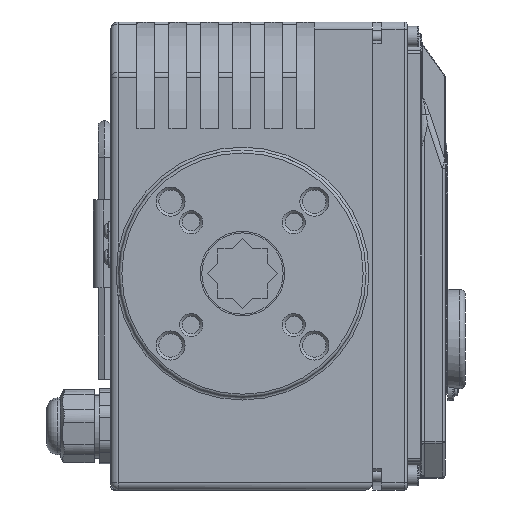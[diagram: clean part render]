
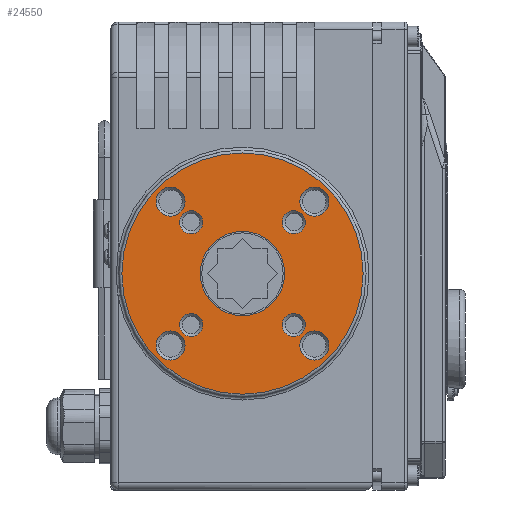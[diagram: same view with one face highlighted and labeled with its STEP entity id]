
A CAD part, front view. The second image highlights one B-rep face of the part: STEP entity #24550.
In plain terms, the highlighted planar face has unit normal (0, -1, 0).
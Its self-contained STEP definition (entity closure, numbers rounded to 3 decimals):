
#798=PLANE('',#26270);
#5063=FACE_BOUND('',#7237,.T.);
#5064=FACE_BOUND('',#7238,.T.);
#5065=FACE_BOUND('',#7239,.T.);
#5066=FACE_BOUND('',#7240,.T.);
#5067=FACE_BOUND('',#7241,.T.);
#5068=FACE_BOUND('',#7242,.T.);
#5069=FACE_BOUND('',#7243,.T.);
#5070=FACE_BOUND('',#7244,.T.);
#5071=FACE_BOUND('',#7245,.T.);
#5838=FACE_OUTER_BOUND('',#7236,.T.);
#7236=EDGE_LOOP('',(#18012));
#7237=EDGE_LOOP('',(#18013));
#7238=EDGE_LOOP('',(#18014));
#7239=EDGE_LOOP('',(#18015));
#7240=EDGE_LOOP('',(#18016));
#7241=EDGE_LOOP('',(#18017));
#7242=EDGE_LOOP('',(#18018));
#7243=EDGE_LOOP('',(#18019));
#7244=EDGE_LOOP('',(#18020));
#7245=EDGE_LOOP('',(#18021));
#8596=CIRCLE('',#26268,4.);
#8598=CIRCLE('',#26271,41.5);
#8599=CIRCLE('',#26272,5.);
#8600=CIRCLE('',#26273,4.);
#8601=CIRCLE('',#26274,4.);
#8602=CIRCLE('',#26275,5.);
#8603=CIRCLE('',#26276,14.5);
#8604=CIRCLE('',#26277,4.);
#8605=CIRCLE('',#26278,5.);
#8606=CIRCLE('',#26279,5.);
#10761=VERTEX_POINT('',#38262);
#10763=VERTEX_POINT('',#38268);
#10764=VERTEX_POINT('',#38270);
#10765=VERTEX_POINT('',#38272);
#10766=VERTEX_POINT('',#38274);
#10767=VERTEX_POINT('',#38276);
#10768=VERTEX_POINT('',#38278);
#10769=VERTEX_POINT('',#38280);
#10770=VERTEX_POINT('',#38282);
#10771=VERTEX_POINT('',#38284);
#13465=EDGE_CURVE('',#10761,#10761,#8596,.T.);
#13468=EDGE_CURVE('',#10763,#10763,#8598,.T.);
#13469=EDGE_CURVE('',#10764,#10764,#8599,.T.);
#13470=EDGE_CURVE('',#10765,#10765,#8600,.T.);
#13471=EDGE_CURVE('',#10766,#10766,#8601,.T.);
#13472=EDGE_CURVE('',#10767,#10767,#8602,.T.);
#13473=EDGE_CURVE('',#10768,#10768,#8603,.T.);
#13474=EDGE_CURVE('',#10769,#10769,#8604,.T.);
#13475=EDGE_CURVE('',#10770,#10770,#8605,.T.);
#13476=EDGE_CURVE('',#10771,#10771,#8606,.T.);
#18012=ORIENTED_EDGE('',*,*,#13468,.F.);
#18013=ORIENTED_EDGE('',*,*,#13469,.F.);
#18014=ORIENTED_EDGE('',*,*,#13470,.F.);
#18015=ORIENTED_EDGE('',*,*,#13471,.F.);
#18016=ORIENTED_EDGE('',*,*,#13472,.F.);
#18017=ORIENTED_EDGE('',*,*,#13473,.T.);
#18018=ORIENTED_EDGE('',*,*,#13474,.F.);
#18019=ORIENTED_EDGE('',*,*,#13475,.F.);
#18020=ORIENTED_EDGE('',*,*,#13476,.F.);
#18021=ORIENTED_EDGE('',*,*,#13465,.F.);
#24550=ADVANCED_FACE('',(#5838,#5063,#5064,#5065,#5066,#5067,#5068,#5069,
#5070,#5071),#798,.T.);
#26268=AXIS2_PLACEMENT_3D('',#38263,#29553,#29554);
#26270=AXIS2_PLACEMENT_3D('',#38267,#29558,#29559);
#26271=AXIS2_PLACEMENT_3D('',#38269,#29560,#29561);
#26272=AXIS2_PLACEMENT_3D('',#38271,#29562,#29563);
#26273=AXIS2_PLACEMENT_3D('',#38273,#29564,#29565);
#26274=AXIS2_PLACEMENT_3D('',#38275,#29566,#29567);
#26275=AXIS2_PLACEMENT_3D('',#38277,#29568,#29569);
#26276=AXIS2_PLACEMENT_3D('',#38279,#29570,#29571);
#26277=AXIS2_PLACEMENT_3D('',#38281,#29572,#29573);
#26278=AXIS2_PLACEMENT_3D('',#38283,#29574,#29575);
#26279=AXIS2_PLACEMENT_3D('',#38285,#29576,#29577);
#29553=DIRECTION('center_axis',(0.,-1.,0.));
#29554=DIRECTION('ref_axis',(-1.,0.,0.));
#29558=DIRECTION('center_axis',(0.,-1.,0.));
#29559=DIRECTION('ref_axis',(0.,0.,
-1.));
#29560=DIRECTION('center_axis',(0.,1.,0.));
#29561=DIRECTION('ref_axis',(-1.,0.,0.));
#29562=DIRECTION('center_axis',(0.,-1.,0.));
#29563=DIRECTION('ref_axis',(-1.,0.,0.));
#29564=DIRECTION('center_axis',(0.,-1.,0.));
#29565=DIRECTION('ref_axis',(-1.,0.,0.));
#29566=DIRECTION('center_axis',(0.,-1.,0.));
#29567=DIRECTION('ref_axis',(-1.,0.,0.));
#29568=DIRECTION('center_axis',(0.,-1.,0.));
#29569=DIRECTION('ref_axis',(-1.,0.,0.));
#29570=DIRECTION('center_axis',(0.,1.,0.));
#29571=DIRECTION('ref_axis',(-1.,0.,0.));
#29572=DIRECTION('center_axis',(0.,-1.,0.));
#29573=DIRECTION('ref_axis',(-1.,0.,0.));
#29574=DIRECTION('center_axis',(0.,-1.,0.));
#29575=DIRECTION('ref_axis',(-1.,0.,0.));
#29576=DIRECTION('center_axis',(0.,-1.,0.));
#29577=DIRECTION('ref_axis',(-1.,0.,0.));
#38262=CARTESIAN_POINT('',(21.678,-42.5,17.678));
#38263=CARTESIAN_POINT('Origin',(17.678,-42.5,17.678));
#38267=CARTESIAN_POINT('Origin',(0.,-42.5,0.));
#38268=CARTESIAN_POINT('',(0.,-42.5,41.5));
#38269=CARTESIAN_POINT('Origin',(0.,-42.5,0.));
#38270=CARTESIAN_POINT('',(29.749,-42.5,24.749));
#38271=CARTESIAN_POINT('Origin',(24.749,-42.5,24.749));
#38272=CARTESIAN_POINT('',(-13.678,-42.5,17.678));
#38273=CARTESIAN_POINT('Origin',(-17.678,-42.5,17.678));
#38274=CARTESIAN_POINT('',(-13.678,-42.5,-17.678));
#38275=CARTESIAN_POINT('Origin',(-17.678,-42.5,-17.678));
#38276=CARTESIAN_POINT('',(29.749,-42.5,-24.749));
#38277=CARTESIAN_POINT('Origin',(24.749,-42.5,-24.749));
#38278=CARTESIAN_POINT('',(14.5,-42.5,0.));
#38279=CARTESIAN_POINT('Origin',(0.,-42.5,0.));
#38280=CARTESIAN_POINT('',(21.678,-42.5,-17.678));
#38281=CARTESIAN_POINT('Origin',(17.678,-42.5,-17.678));
#38282=CARTESIAN_POINT('',(-19.749,-42.5,-24.749));
#38283=CARTESIAN_POINT('Origin',(-24.749,-42.5,-24.749));
#38284=CARTESIAN_POINT('',(-19.749,-42.5,24.749));
#38285=CARTESIAN_POINT('Origin',(-24.749,-42.5,24.749));
